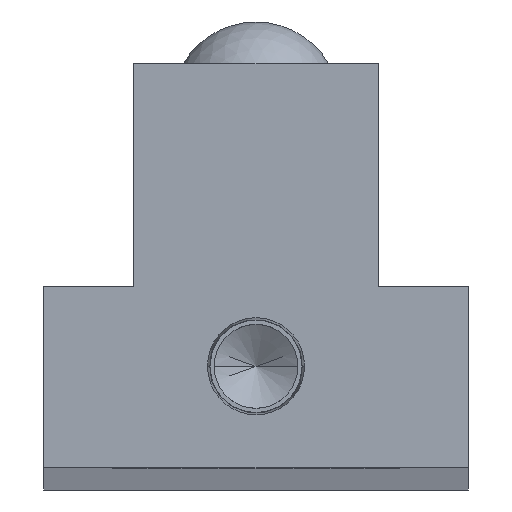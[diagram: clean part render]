
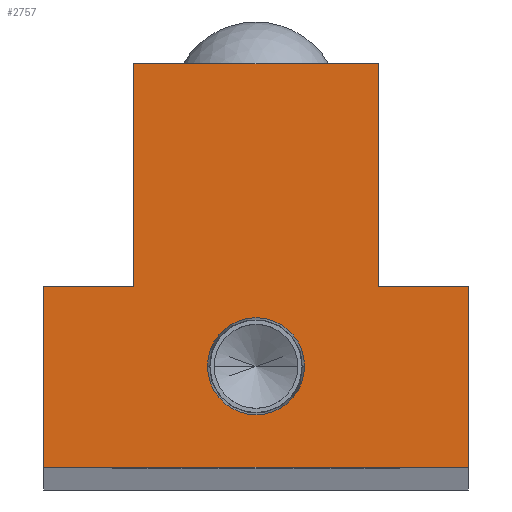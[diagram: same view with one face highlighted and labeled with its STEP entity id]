
A CAD part, top view. The second image highlights one B-rep face of the part: STEP entity #2757.
In plain terms, the highlighted planar face has unit normal (0, 0, 1).
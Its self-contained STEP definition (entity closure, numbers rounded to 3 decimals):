
#185 = CARTESIAN_POINT ( 'NONE',  ( -20., 17., 0. ) ) ;
#224 = VERTEX_POINT ( 'NONE', #5524 ) ;
#237 = VECTOR ( 'NONE', #7710, 1000. ) ;
#243 = LINE ( 'NONE', #4793, #7789 ) ;
#249 = VERTEX_POINT ( 'NONE', #3709 ) ;
#316 = EDGE_CURVE ( 'NONE', #1113, #2145, #3073, .T. ) ;
#373 = DIRECTION ( 'NONE',  ( 0., 0., 1. ) ) ;
#401 = EDGE_LOOP ( 'NONE', ( #1187, #3977 ) ) ;
#610 = VERTEX_POINT ( 'NONE', #3627 ) ;
#613 = ORIENTED_EDGE ( 'NONE', *, *, #3271, .T. ) ;
#933 = CARTESIAN_POINT ( 'NONE',  ( -20., 0., 0. ) ) ;
#1023 = CARTESIAN_POINT ( 'NONE',  ( 0., 0., 0. ) ) ;
#1078 = CARTESIAN_POINT ( 'NONE',  ( -20., 0., 0. ) ) ;
#1113 = VERTEX_POINT ( 'NONE', #185 ) ;
#1122 = VERTEX_POINT ( 'NONE', #6981 ) ;
#1187 = ORIENTED_EDGE ( 'NONE', *, *, #6487, .F. ) ;
#1226 = AXIS2_PLACEMENT_3D ( 'NONE', #1023, #3587, #7712 ) ;
#1251 = AXIS2_PLACEMENT_3D ( 'NONE', #2942, #7143, #3585 ) ;
#1310 = VECTOR ( 'NONE', #4124, 1000. ) ;
#1395 = EDGE_CURVE ( 'NONE', #249, #224, #5192, .T. ) ;
#1486 = VERTEX_POINT ( 'NONE', #3621 ) ;
#1553 = FACE_OUTER_BOUND ( 'NONE', #5336, .T. ) ;
#1637 = DIRECTION ( 'NONE',  ( -1., 0., 0. ) ) ;
#1764 = CARTESIAN_POINT ( 'NONE',  ( 11.5, 38., 0. ) ) ;
#2145 = VERTEX_POINT ( 'NONE', #933 ) ;
#2240 = ORIENTED_EDGE ( 'NONE', *, *, #7247, .T. ) ;
#2455 = VECTOR ( 'NONE', #5549, 1000. ) ;
#2460 = CARTESIAN_POINT ( 'NONE',  ( -11.5, 17., 0. ) ) ;
#2534 = CARTESIAN_POINT ( 'NONE',  ( 20., 17., 0. ) ) ;
#2696 = VERTEX_POINT ( 'NONE', #5906 ) ;
#2753 = EDGE_CURVE ( 'NONE', #5285, #1486, #243, .T. ) ;
#2757 = ADVANCED_FACE ( 'NONE', ( #4878, #1553 ), #7145, .F. ) ;
#2882 = VECTOR ( 'NONE', #7694, 1000. ) ;
#2942 = CARTESIAN_POINT ( 'NONE',  ( 0., 9.5, 0. ) ) ;
#3064 = EDGE_CURVE ( 'NONE', #1122, #5285, #7877, .T. ) ;
#3073 = LINE ( 'NONE', #1078, #2882 ) ;
#3210 = ORIENTED_EDGE ( 'NONE', *, *, #4548, .T. ) ;
#3271 = EDGE_CURVE ( 'NONE', #2145, #1122, #5269, .T. ) ;
#3340 = ORIENTED_EDGE ( 'NONE', *, *, #3391, .T. ) ;
#3391 = EDGE_CURVE ( 'NONE', #7672, #1113, #5722, .T. ) ;
#3585 = DIRECTION ( 'NONE',  ( 1., 0., 0. ) ) ;
#3587 = DIRECTION ( 'NONE',  ( 0., 0., -1. ) ) ;
#3599 = CIRCLE ( 'NONE', #1251, 4.574 ) ;
#3621 = CARTESIAN_POINT ( 'NONE',  ( 11.5, 17., 0. ) ) ;
#3627 = CARTESIAN_POINT ( 'NONE',  ( 11.5, 38., 0. ) ) ;
#3668 = DIRECTION ( 'NONE',  ( 0., 1., 0. ) ) ;
#3709 = CARTESIAN_POINT ( 'NONE',  ( -4.574, 9.5, 0. ) ) ;
#3977 = ORIENTED_EDGE ( 'NONE', *, *, #1395, .F. ) ;
#4124 = DIRECTION ( 'NONE',  ( 0., -1., 0. ) ) ;
#4186 = CARTESIAN_POINT ( 'NONE',  ( 0., 9.5, 0. ) ) ;
#4208 = CARTESIAN_POINT ( 'NONE',  ( 20., 0., 0. ) ) ;
#4358 = ORIENTED_EDGE ( 'NONE', *, *, #3064, .T. ) ;
#4390 = VECTOR ( 'NONE', #7785, 1000. ) ;
#4548 = EDGE_CURVE ( 'NONE', #610, #2696, #7513, .T. ) ;
#4567 = VECTOR ( 'NONE', #3668, 1000. ) ;
#4756 = CARTESIAN_POINT ( 'NONE',  ( -11.5, 17., 0. ) ) ;
#4793 = CARTESIAN_POINT ( 'NONE',  ( 20., 17., 0. ) ) ;
#4795 = DIRECTION ( 'NONE',  ( 1., 0., 0. ) ) ;
#4878 = FACE_BOUND ( 'NONE', #401, .T. ) ;
#5192 = CIRCLE ( 'NONE', #5800, 4.574 ) ;
#5269 = LINE ( 'NONE', #4208, #237 ) ;
#5285 = VERTEX_POINT ( 'NONE', #2534 ) ;
#5336 = EDGE_LOOP ( 'NONE', ( #6393, #2240, #3210, #7394, #3340, #7224, #613, #4358 ) ) ;
#5524 = CARTESIAN_POINT ( 'NONE',  ( 4.574, 9.5, 0. ) ) ;
#5549 = DIRECTION ( 'NONE',  ( -1., 0., 0. ) ) ;
#5722 = LINE ( 'NONE', #2460, #2455 ) ;
#5780 = CARTESIAN_POINT ( 'NONE',  ( 11.5, 17., 0. ) ) ;
#5800 = AXIS2_PLACEMENT_3D ( 'NONE', #4186, #373, #4795 ) ;
#5906 = CARTESIAN_POINT ( 'NONE',  ( -11.5, 38., 0. ) ) ;
#6393 = ORIENTED_EDGE ( 'NONE', *, *, #2753, .T. ) ;
#6487 = EDGE_CURVE ( 'NONE', #224, #249, #3599, .T. ) ;
#6654 = CARTESIAN_POINT ( 'NONE',  ( 20., 17., 0. ) ) ;
#6981 = CARTESIAN_POINT ( 'NONE',  ( 20., 0., 0. ) ) ;
#7083 = CARTESIAN_POINT ( 'NONE',  ( -11.5, 17., 0. ) ) ;
#7143 = DIRECTION ( 'NONE',  ( 0., 0., 1. ) ) ;
#7145 = PLANE ( 'NONE',  #1226 ) ;
#7224 = ORIENTED_EDGE ( 'NONE', *, *, #316, .T. ) ;
#7247 = EDGE_CURVE ( 'NONE', #1486, #610, #7835, .T. ) ;
#7263 = DIRECTION ( 'NONE',  ( 0., 1., 0. ) ) ;
#7394 = ORIENTED_EDGE ( 'NONE', *, *, #7657, .T. ) ;
#7513 = LINE ( 'NONE', #1764, #4390 ) ;
#7657 = EDGE_CURVE ( 'NONE', #2696, #7672, #7741, .T. ) ;
#7672 = VERTEX_POINT ( 'NONE', #4756 ) ;
#7692 = VECTOR ( 'NONE', #7263, 1000. ) ;
#7694 = DIRECTION ( 'NONE',  ( 0., -1., 0. ) ) ;
#7710 = DIRECTION ( 'NONE',  ( 1., 0., 0. ) ) ;
#7712 = DIRECTION ( 'NONE',  ( -1., 0., 0. ) ) ;
#7741 = LINE ( 'NONE', #7083, #1310 ) ;
#7785 = DIRECTION ( 'NONE',  ( -1., 0., 0. ) ) ;
#7789 = VECTOR ( 'NONE', #1637, 1000. ) ;
#7835 = LINE ( 'NONE', #5780, #4567 ) ;
#7877 = LINE ( 'NONE', #6654, #7692 ) ;
